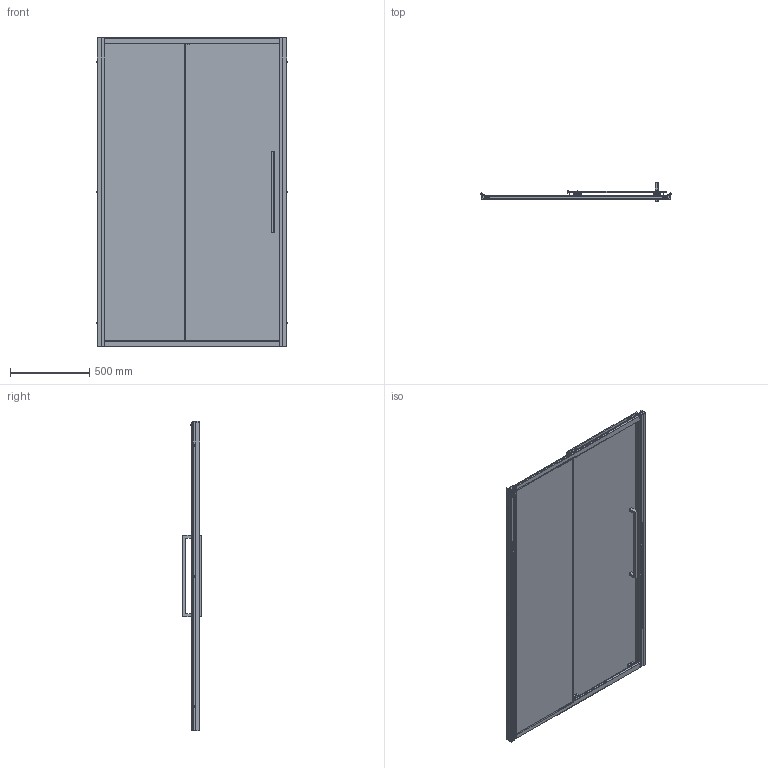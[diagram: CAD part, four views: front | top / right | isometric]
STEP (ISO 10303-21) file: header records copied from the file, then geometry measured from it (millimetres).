
FILE_DESCRIPTION((''),'2;1');
FILE_NAME('00-S617011_ASM','2022-05-25T08:59:16',('Administrator'),(''),'CREO PARAMETRIC BY PTC INC, 2017110','CREO PARAMETRIC BY PTC INC, 2017110','');
FILE_SCHEMA(('CONFIG_CONTROL_DESIGN'));
Length unit declared in the file: millimetre
Products named in the file (32): 00; DBT_ST4X20; YTZG_ST4X10; 28Z05-1-; 28Z05-2-; 000_ASM; 000; 0007; _0001; 0011; _AF_ASM; _0002; 0013; _A_ASM; 10001; 0008_ASM; 0015; 0036; 0037_ASM; 0019; 1-N000; _N1000; 0018; 00-S617011_ASM
Assembly tree (62 placements, depth 4):
  00-S617011_ASM
    000_ASM
      00
      00
      DBT_ST4X20  x4
      000_ASM  x6
        YTZG_ST4X10
        28Z05-1-
        28Z05-2-
    00
    000
    0007
    0008_ASM
      000
      _AF_ASM
        _0001
        00
        0011
      _AF_ASM
        _0001
        00
        0011
      _A_ASM
        _0002
        0013
        00
      _A_ASM
        _0002
        0013
        00
      10001
      00
    0015
    0037_ASM
      00
      00
      000_ASM  x6
        YTZG_ST4X10
        28Z05-1-
        28Z05-2-
      0036
      DBT_ST4X20  x4
    0019  x2
    1-N000  x2
    _N1000  x2
    0018  x2
Bounding box: 1212.4 x 118 x 1953 mm (x, y, z)
Volume: 24824892.2 mm3; surface area: 6422952.1 mm2
Topology: 76 solids, 76 shells, 2492 faces, 6036 edges, 3720 vertices
Faces by surface type: cylinder 966, plane 786, bspline 340, torus 188, cone 124, sphere 88
Entity records: 29898 total; most frequent: CARTESIAN_POINT 12726, DIRECTION 3617, ORIENTED_EDGE 3336, EDGE_CURVE 1668, AXIS2_PLACEMENT_3D 1336, VERTEX_POINT 1064, VECTOR 945, LINE 945
